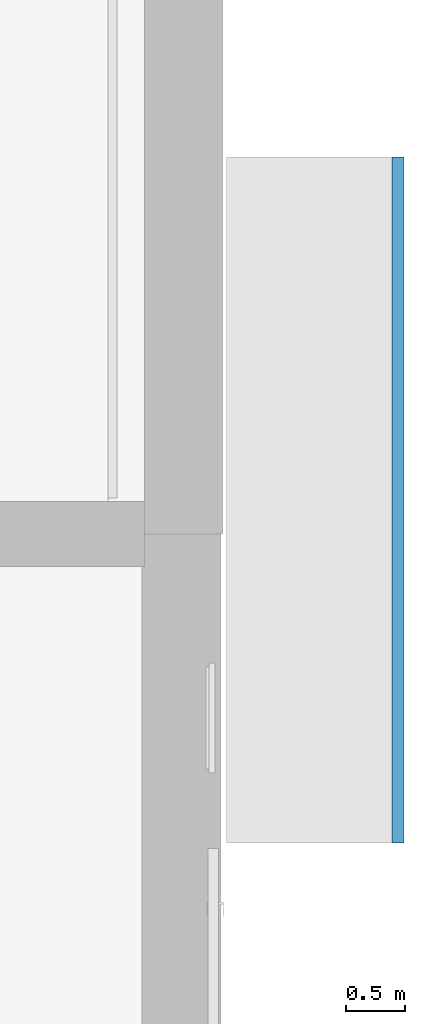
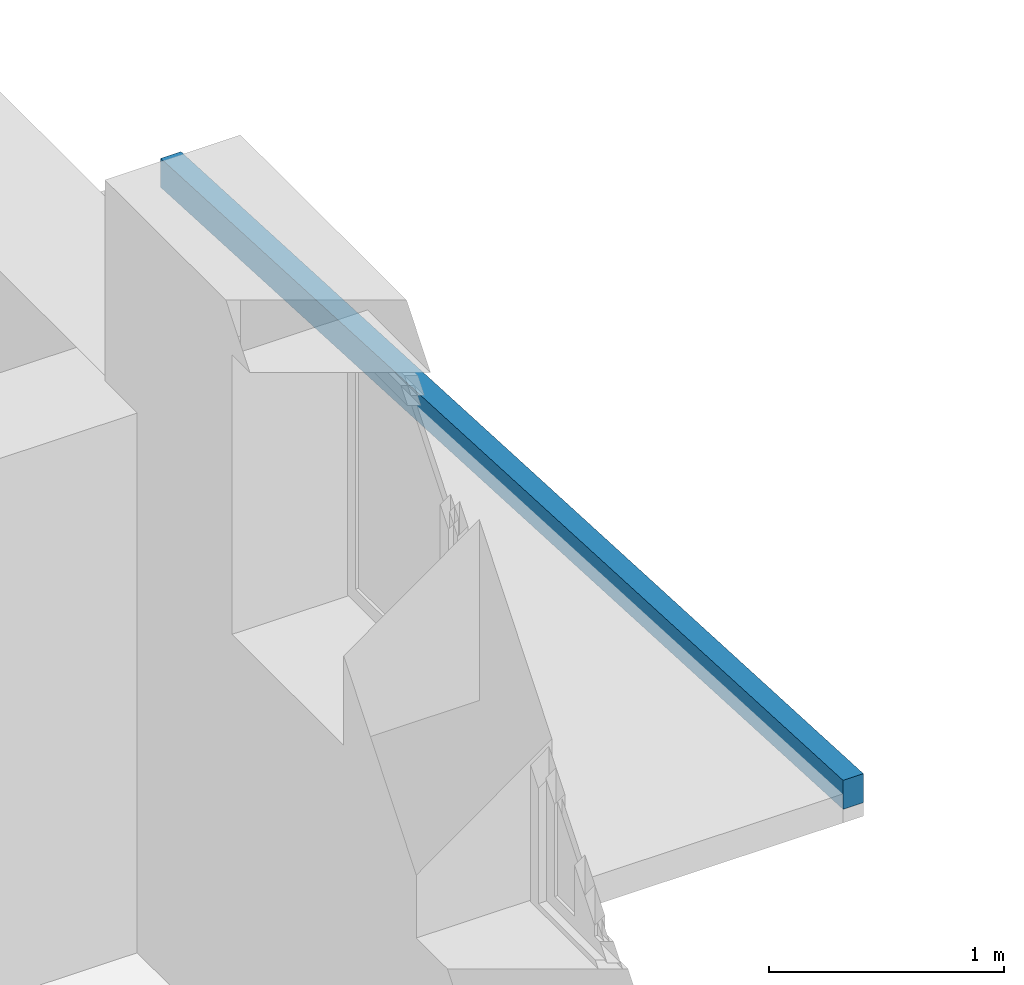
# One storey, part 9 of 23: 1 ramp flight, 1 element without a shape of its own.
"""IFC2X3 building model written with IfcOpenShell, lengths in millimetres."""

from ifc_helpers import new_model, entity, si_unit, converted_unit, derived_unit, direction, frame, origin, origin_2d_with_axis, place, context, subcontext, project, spatial, rectangle, extrude, element, aggregate, save


model = new_model("IFC2X3")

# Units and contexts
model_context = context("Model", 3, precision=0.01, world=origin(), true_north=direction((6.12303176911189e-17, 1.0)))
body_context = subcontext(model_context, "Body", "Model", "MODEL_VIEW")
ifc_project = project(units=[si_unit("LENGTHUNIT", "METRE", prefix="MILLI"), si_unit("AREAUNIT", "SQUARE_METRE"), si_unit("VOLUMEUNIT", "CUBIC_METRE"), converted_unit("PLANEANGLEUNIT", "DEGREE", entity("IfcRatioMeasure", 0.0174532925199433), si_unit("PLANEANGLEUNIT", "RADIAN"), dimensions=[0, 0, 0, 0, 0, 0, 0]), si_unit("MASSUNIT", "GRAM", prefix="KILO"), derived_unit("MASSDENSITYUNIT", [(si_unit("MASSUNIT", "GRAM", prefix="KILO"), 1), (si_unit("LENGTHUNIT", "METRE"), -3)]), si_unit("TIMEUNIT", "SECOND"), si_unit("FREQUENCYUNIT", "HERTZ"), si_unit("THERMODYNAMICTEMPERATUREUNIT", "DEGREE_CELSIUS"), derived_unit("THERMALTRANSMITTANCEUNIT", [(si_unit("MASSUNIT", "GRAM", prefix="KILO"), 1), (si_unit("THERMODYNAMICTEMPERATUREUNIT", "KELVIN"), -1), (si_unit("TIMEUNIT", "SECOND"), -3)]), derived_unit("VOLUMETRICFLOWRATEUNIT", [(si_unit("LENGTHUNIT", "METRE"), 3), (si_unit("TIMEUNIT", "SECOND"), -1)]), si_unit("ELECTRICCURRENTUNIT", "AMPERE"), si_unit("ELECTRICVOLTAGEUNIT", "VOLT"), si_unit("POWERUNIT", "WATT"), si_unit("FORCEUNIT", "NEWTON", prefix="KILO"), si_unit("ILLUMINANCEUNIT", "LUX"), si_unit("LUMINOUSFLUXUNIT", "LUMEN"), si_unit("LUMINOUSINTENSITYUNIT", "CANDELA"), derived_unit("USERDEFINED", [(si_unit("MASSUNIT", "GRAM", prefix="KILO"), -1), (si_unit("LENGTHUNIT", "METRE"), -2), (si_unit("TIMEUNIT", "SECOND"), 3), (si_unit("LUMINOUSFLUXUNIT", "LUMEN"), 1)]), derived_unit("LINEARVELOCITYUNIT", [(si_unit("LENGTHUNIT", "METRE"), 1), (si_unit("TIMEUNIT", "SECOND"), -1)]), si_unit("PRESSUREUNIT", "PASCAL"), derived_unit("USERDEFINED", [(si_unit("LENGTHUNIT", "METRE"), -2), (si_unit("MASSUNIT", "GRAM", prefix="KILO"), 1), (si_unit("TIMEUNIT", "SECOND"), -2)]), derived_unit("LINEARFORCEUNIT", [(si_unit("MASSUNIT", "GRAM", prefix="KILO"), 1), (si_unit("LENGTHUNIT", "METRE"), 1), (si_unit("TIMEUNIT", "SECOND"), -2), (si_unit("LENGTHUNIT", "METRE"), -1)]), derived_unit("PLANARFORCEUNIT", [(si_unit("MASSUNIT", "GRAM", prefix="KILO"), 1), (si_unit("LENGTHUNIT", "METRE"), 1), (si_unit("TIMEUNIT", "SECOND"), -2), (si_unit("LENGTHUNIT", "METRE"), -2)])], contexts=[model_context])

# Site, building, storey
site_placement = place(None, origin())
site = spatial("IfcSite", under=ifc_project, at=site_placement, Name="Default", CompositionType="ELEMENT")
building_placement = place(site_placement, origin())
building = spatial("IfcBuilding", under=site, at=building_placement, Name="SMA ARH", CompositionType="ELEMENT")
storey_placement = place(building_placement, frame((0.0, 0.0, -2800.0)))
storey = spatial("IfcBuildingStorey", under=building, at=storey_placement, Name="0 Sokkel", CompositionType="ELEMENT", Elevation=-2800.0)

# Ramp, ramp flight
ramp_placement = place(storey_placement, origin())
ramp = element("IfcRamp", 1, at=ramp_placement, inside=storey, Name="Ramp:Ramp 1", ObjectType="Ramp:Ramp 1", ShapeType="NOTDEFINED")
ramp_flight_placement = place(ramp_placement, origin())
ramp_flight = element("IfcRampFlight", 2, at=ramp_flight_placement, Name="Ramp:Ramp 1:1", ObjectType="Ramp:Ramp 1", context=body_context, shape_type="SweptSolid", body=[
    extrude(rectangle(XDim=5807.24547440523, YDim=100.000000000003, at=origin_2d_with_axis()), frame((40379.7673217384, 6534.41019964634, 1274.81261704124), z_axis=(0.0, 0.0499376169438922, 0.998752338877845), x_axis=(0.0, 0.998752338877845, -0.0499376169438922)), (-0.0499376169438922, 0.0, 0.998752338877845), 150.187382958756),
])
aggregate(ramp, [ramp_flight])

save(model, "model.ifc")
